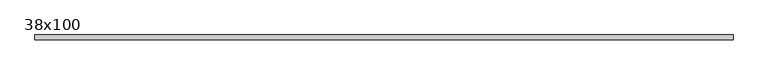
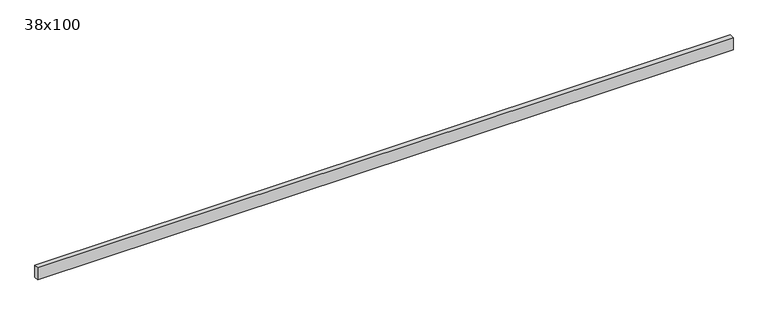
"""IFC4 building model written with IfcOpenShell, lengths in millimetres: beam geometry, Poutre - Bois de construction de dimensions courantes : 38x100."""

from ifc_helpers import new_model, si_unit, frame, origin, place, context, project, spatial, polyline, outline, extrude, source, transform, mapped, element, save


def beam_38x100_b251c9c5(model_context):
    return source(origin(), model_context, "Body", "SweptSolid", [
        extrude(outline(polyline([(2737.5, 19.05), (2737.5, -19.05), (-2737.5, -19.05), (-2737.5, 19.05), (2737.5, 19.05)])), frame((0.0, 0.0, -50.0), z_axis=(0.0, 0.0, 1.0), x_axis=(1.0, 0.0, 0.0)), (0.0, 0.0, 1.0), 100.0),
    ])


if __name__ == "__main__":
    model = new_model("IFC4")
    model_context = context("Model", 3, world=origin())
    ifc_project = project(units=[si_unit("LENGTHUNIT", "METRE", prefix="MILLI")], contexts=[model_context])
    site = spatial("IfcSite", under=ifc_project)
    building = spatial("IfcBuilding", under=site)
    placement = place(None, origin())
    beam_38x100_shape = beam_38x100_b251c9c5(model_context)
    element("IfcBeam", 1, ObjectType="Poutre - Bois de construction de dimensions courantes : 38x100", at=placement, inside=building, context=model_context, shape_type="MappedRepresentation", body=[
        mapped(beam_38x100_shape, transform((0.0, 0.0, 0.0), x_axis=(1.0, 0.0, 0.0), y_axis=(0.0, 1.0, 0.0), z_axis=(0.0, 0.0, 1.0))),
    ])
    save(model, "model.ifc")
